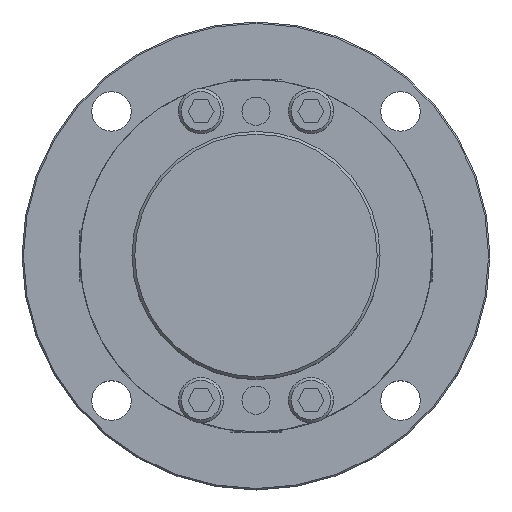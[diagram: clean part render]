
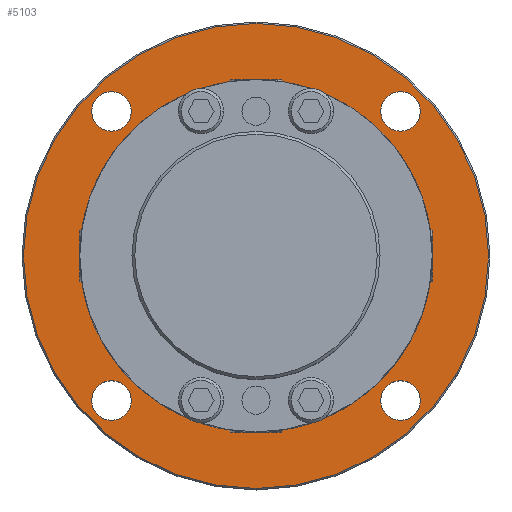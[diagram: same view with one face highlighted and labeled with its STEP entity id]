
A CAD part, top view. The second image highlights one B-rep face of the part: STEP entity #5103.
In plain terms, the highlighted planar face has unit normal (0, 0, 1).
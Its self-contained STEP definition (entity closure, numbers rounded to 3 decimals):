
#1254=CARTESIAN_POINT('',(0.,62.5,-25.));
#1255=VERTEX_POINT('',#1254);
#1373=CARTESIAN_POINT('',(0.,-62.5,-25.));
#1374=VERTEX_POINT('',#1373);
#1381=CARTESIAN_POINT('',(0.,0.,-25.));
#1382=DIRECTION('',(0.0,0.0,-1.0));
#1383=DIRECTION('',(0.0,1.0,0.0));
#1384=AXIS2_PLACEMENT_3D('',#1381,#1382,#1383);
#1385=CIRCLE('',#1384,62.5);
#1386=EDGE_CURVE('',#1255,#1374,#1385,.T.);
#1577=CARTESIAN_POINT('',(-51.265,-44.265,-25.));
#1578=VERTEX_POINT('',#1577);
#1587=CARTESIAN_POINT('',(-51.265,-58.265,-25.));
#1588=VERTEX_POINT('',#1587);
#1589=CARTESIAN_POINT('',(-51.265,-51.265,-25.));
#1590=DIRECTION('',(0.0,0.0,-1.0));
#1591=DIRECTION('',(0.0,1.0,0.0));
#1592=AXIS2_PLACEMENT_3D('',#1589,#1590,#1591);
#1593=CIRCLE('',#1592,7.0);
#1594=EDGE_CURVE('',#1588,#1578,#1593,.T.);
#1619=CARTESIAN_POINT('',(-51.265,58.265,-25.));
#1620=VERTEX_POINT('',#1619);
#1629=CARTESIAN_POINT('',(-51.265,44.265,-25.));
#1630=VERTEX_POINT('',#1629);
#1631=CARTESIAN_POINT('',(-51.265,51.265,-25.));
#1632=DIRECTION('',(0.0,0.0,-1.0));
#1633=DIRECTION('',(0.0,1.0,0.0));
#1634=AXIS2_PLACEMENT_3D('',#1631,#1632,#1633);
#1635=CIRCLE('',#1634,7.0);
#1636=EDGE_CURVE('',#1630,#1620,#1635,.T.);
#1661=CARTESIAN_POINT('',(51.265,58.265,-25.));
#1662=VERTEX_POINT('',#1661);
#1671=CARTESIAN_POINT('',(51.265,44.265,-25.));
#1672=VERTEX_POINT('',#1671);
#1673=CARTESIAN_POINT('',(51.265,51.265,-25.));
#1674=DIRECTION('',(0.0,0.0,-1.0));
#1675=DIRECTION('',(0.0,1.0,0.0));
#1676=AXIS2_PLACEMENT_3D('',#1673,#1674,#1675);
#1677=CIRCLE('',#1676,7.0);
#1678=EDGE_CURVE('',#1672,#1662,#1677,.T.);
#1703=CARTESIAN_POINT('',(51.265,-44.265,-25.));
#1704=VERTEX_POINT('',#1703);
#1713=CARTESIAN_POINT('',(51.265,-58.265,-25.));
#1714=VERTEX_POINT('',#1713);
#1715=CARTESIAN_POINT('',(51.265,-51.265,-25.));
#1716=DIRECTION('',(0.0,0.0,-1.0));
#1717=DIRECTION('',(0.0,1.0,0.0));
#1718=AXIS2_PLACEMENT_3D('',#1715,#1716,#1717);
#1719=CIRCLE('',#1718,7.0);
#1720=EDGE_CURVE('',#1714,#1704,#1719,.T.);
#2289=CARTESIAN_POINT('',(0.,-82.5,-25.));
#2290=VERTEX_POINT('',#2289);
#2297=CARTESIAN_POINT('',(0.,82.5,-25.));
#2298=VERTEX_POINT('',#2297);
#2299=CARTESIAN_POINT('',(0.,0.,-25.));
#2300=DIRECTION('',(0.0,0.0,-1.0));
#2301=DIRECTION('',(0.0,-1.0,0.0));
#2302=AXIS2_PLACEMENT_3D('',#2299,#2300,#2301);
#2303=CIRCLE('',#2302,82.5);
#2304=EDGE_CURVE('',#2290,#2298,#2303,.T.);
#5022=CARTESIAN_POINT('',(0.,0.,-25.));
#5023=DIRECTION('',(0.0,0.0,-1.0));
#5024=DIRECTION('',(0.0,-1.0,0.0));
#5025=AXIS2_PLACEMENT_3D('',#5022,#5023,#5024);
#5026=CIRCLE('',#5025,82.5);
#5027=EDGE_CURVE('',#2298,#2290,#5026,.T.);
#5044=CARTESIAN_POINT('',(0.,7.545,-25.));
#5045=DIRECTION('',(0.0,0.0,1.0));
#5046=DIRECTION('',(0.0,1.0,0.0));
#5047=AXIS2_PLACEMENT_3D('',#5044,#5045,#5046);
#5048=PLANE('',#5047);
#5049=ORIENTED_EDGE('',*,*,#5027,.F.);
#5050=ORIENTED_EDGE('',*,*,#2304,.F.);
#5051=EDGE_LOOP('',(#5049,#5050));
#5052=FACE_OUTER_BOUND('',#5051,.T.);
#5053=CARTESIAN_POINT('',(0.,0.,-25.));
#5054=DIRECTION('',(0.0,0.0,-1.0));
#5055=DIRECTION('',(0.0,1.0,0.0));
#5056=AXIS2_PLACEMENT_3D('',#5053,#5054,#5055);
#5057=CIRCLE('',#5056,62.5);
#5058=EDGE_CURVE('',#1374,#1255,#5057,.T.);
#5059=ORIENTED_EDGE('',*,*,#5058,.T.);
#5060=ORIENTED_EDGE('',*,*,#1386,.T.);
#5061=EDGE_LOOP('',(#5059,#5060));
#5062=FACE_BOUND('',#5061,.T.);
#5063=ORIENTED_EDGE('',*,*,#1594,.T.);
#5064=CARTESIAN_POINT('',(-51.265,-51.265,-25.));
#5065=DIRECTION('',(0.0,0.0,-1.0));
#5066=DIRECTION('',(0.0,1.0,0.0));
#5067=AXIS2_PLACEMENT_3D('',#5064,#5065,#5066);
#5068=CIRCLE('',#5067,7.0);
#5069=EDGE_CURVE('',#1578,#1588,#5068,.T.);
#5070=ORIENTED_EDGE('',*,*,#5069,.T.);
#5071=EDGE_LOOP('',(#5063,#5070));
#5072=FACE_BOUND('',#5071,.T.);
#5073=ORIENTED_EDGE('',*,*,#1636,.T.);
#5074=CARTESIAN_POINT('',(-51.265,51.265,-25.));
#5075=DIRECTION('',(0.0,0.0,-1.0));
#5076=DIRECTION('',(0.0,1.0,0.0));
#5077=AXIS2_PLACEMENT_3D('',#5074,#5075,#5076);
#5078=CIRCLE('',#5077,7.0);
#5079=EDGE_CURVE('',#1620,#1630,#5078,.T.);
#5080=ORIENTED_EDGE('',*,*,#5079,.T.);
#5081=EDGE_LOOP('',(#5073,#5080));
#5082=FACE_BOUND('',#5081,.T.);
#5083=ORIENTED_EDGE('',*,*,#1678,.T.);
#5084=CARTESIAN_POINT('',(51.265,51.265,-25.));
#5085=DIRECTION('',(0.0,0.0,-1.0));
#5086=DIRECTION('',(0.0,1.0,0.0));
#5087=AXIS2_PLACEMENT_3D('',#5084,#5085,#5086);
#5088=CIRCLE('',#5087,7.0);
#5089=EDGE_CURVE('',#1662,#1672,#5088,.T.);
#5090=ORIENTED_EDGE('',*,*,#5089,.T.);
#5091=EDGE_LOOP('',(#5083,#5090));
#5092=FACE_BOUND('',#5091,.T.);
#5093=ORIENTED_EDGE('',*,*,#1720,.T.);
#5094=CARTESIAN_POINT('',(51.265,-51.265,-25.));
#5095=DIRECTION('',(0.0,0.0,-1.0));
#5096=DIRECTION('',(0.0,1.0,0.0));
#5097=AXIS2_PLACEMENT_3D('',#5094,#5095,#5096);
#5098=CIRCLE('',#5097,7.0);
#5099=EDGE_CURVE('',#1704,#1714,#5098,.T.);
#5100=ORIENTED_EDGE('',*,*,#5099,.T.);
#5101=EDGE_LOOP('',(#5093,#5100));
#5102=FACE_BOUND('',#5101,.T.);
#5103=ADVANCED_FACE('',(#5052,#5062,#5072,#5082,#5092,#5102),#5048,.T.);
